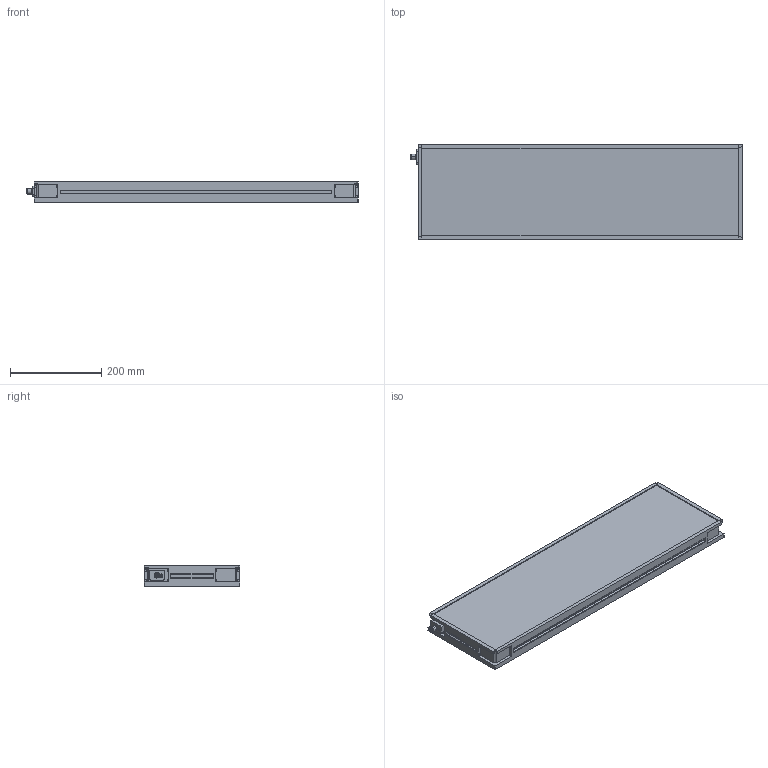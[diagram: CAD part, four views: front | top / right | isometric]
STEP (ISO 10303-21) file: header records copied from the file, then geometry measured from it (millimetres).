
FILE_DESCRIPTION (( 'STEP AP214' ), '1' );
FILE_NAME ('MBACK-xxxx-xxx-M1_CLIENT200x700.STEP', '2022-03-31T15:59:12', ( '' ), ( '' ), 'SwSTEP 2.0', 'SolidWorks 2020', '' );
FILE_SCHEMA (( 'AUTOMOTIVE_DESIGN' ));
Length unit declared in the file: millimetre
Products named in the file (1): MBACK-xxxx-xxx-M1_CLIENT200x700
Bounding box: 725.9 x 208 x 45.5 mm (x, y, z)
Volume: 6067559.6 mm3; surface area: 415993.2 mm2
Topology: 1 solids, 1 shells, 442 faces, 1144 edges, 760 vertices
Faces by surface type: plane 249, cylinder 105, bspline 80, cone 8
Entity records: 17236 total; most frequent: CARTESIAN_POINT 6699, ORIENTED_EDGE 2288, DIRECTION 1936, EDGE_CURVE 1144, VERTEX_POINT 760, VECTOR 758, LINE 758, AXIS2_PLACEMENT_3D 589
